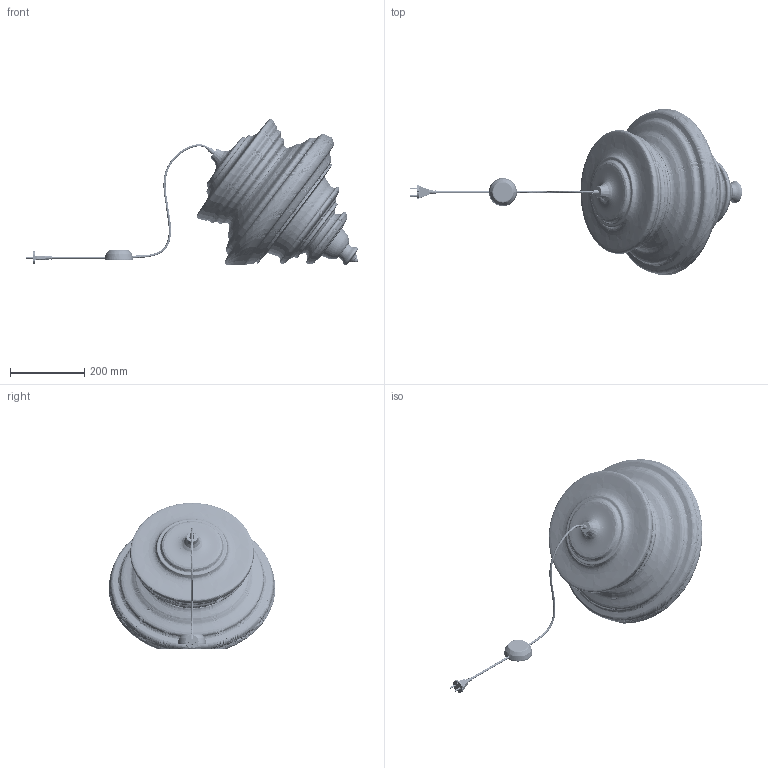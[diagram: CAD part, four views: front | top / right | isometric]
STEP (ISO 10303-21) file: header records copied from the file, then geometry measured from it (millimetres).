
FILE_DESCRIPTION(/* description */ (''),/* implementation_level */ '2;1');
FILE_NAME(/* name */ 'La Scala Floor',/* time_stamp */ '2019-01-18T13:32:02+01:00',/* author */ (''),/* organization */ (''),/* preprocessor_version */ 'ST-DEVELOPER v15',/* originating_system */ '',/* authorisation */ '');
FILE_SCHEMA (('AUTOMOTIVE_DESIGN'));
Products named in the file (1): Document
Bounding box: 896.85 x 449.52 x 394.96 mm (x, y, z)
Volume: 2185210.1 mm3; surface area: 1305580.7 mm2
Topology: 9 solids, 10 shells, 2833 faces, 5863 edges, 3027 vertices
Faces by surface type: bspline 2833
Entity records: 172062 total; most frequent: CARTESIAN_POINT 101606, B_SPLINE_CURVE_WITH_KNOTS 11991, ORIENTED_EDGE 11660, PCURVE 11660, DEFINITIONAL_REPRESENTATION 11660, SURFACE_CURVE 5833, EDGE_CURVE 5833, VERTEX_POINT 3027
